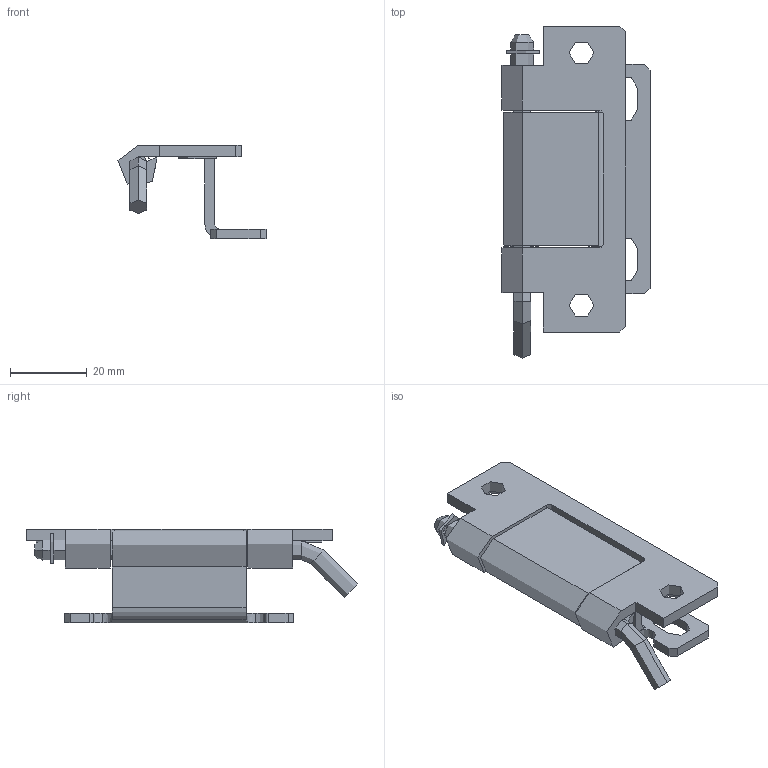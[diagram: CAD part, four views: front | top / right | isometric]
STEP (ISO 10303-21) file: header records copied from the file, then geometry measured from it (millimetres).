
FILE_DESCRIPTION(/* description */ (''),/* implementation_level */ '2;1');
FILE_NAME(/* name */ 'JL250-2',/* time_stamp */ '2024-10-04T15:03:10+08:00',/* author */ (''),/* organization */ (''),/* preprocessor_version */ 'ST-DEVELOPER v19.2',/* originating_system */ 'Rhino 8.5',/* authorisation */ '');
FILE_SCHEMA (('CONFIG_CONTROL_DESIGN'));
Length unit declared in the file: millimetre
Products named in the file (1): Document
Bounding box: 38.69 x 86.76 x 24.5 mm (x, y, z)
Volume: 13818 mm3; surface area: 12735.4 mm2
Topology: 6 solids, 7 shells, 112 faces, 305 edges, 215 vertices
Faces by surface type: cylinder 56, plane 52, bspline 4
Entity records: 3797 total; most frequent: CARTESIAN_POINT 1258, ORIENTED_EDGE 564, DIRECTION 342, EDGE_CURVE 284, AXIS2_PLACEMENT_3D 221, VERTEX_POINT 188, EDGE_LOOP 131, B_SPLINE_CURVE_WITH_KNOTS 130
